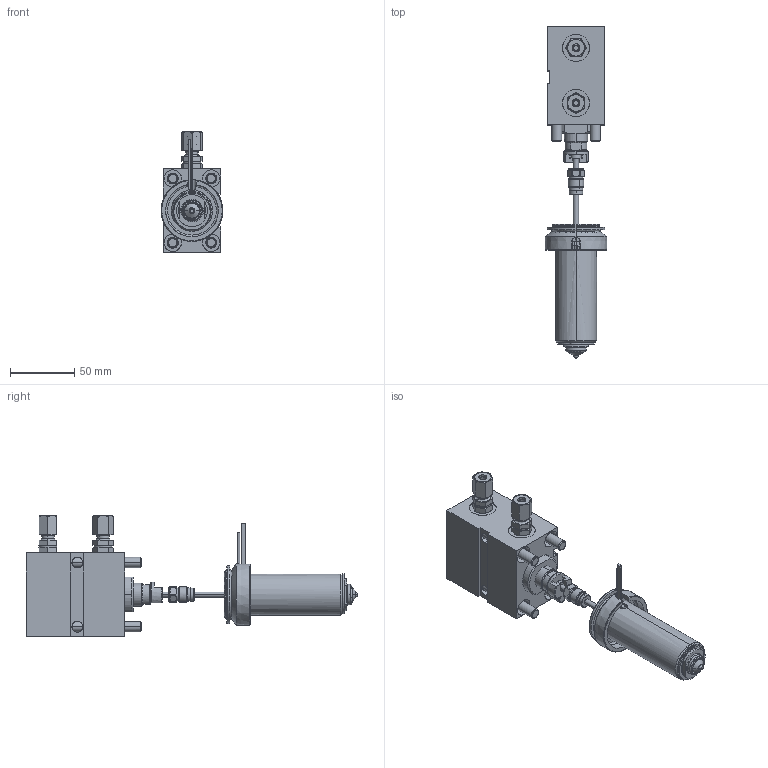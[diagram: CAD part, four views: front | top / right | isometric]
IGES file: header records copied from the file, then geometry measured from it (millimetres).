
Start section: Write IGES format                                    datakit 2008 (c)
Global section: file name: Unknown; native system: DATAKIT Converter; preprocessor: Unknown; author: Unknown; organization: Unknown; date: 950613.180003; units: millimetre
Bounding box: 48 x 258.5 x 94.01 mm (x, y, z)
Surface area: 121584.6 mm2 (no closed solid volume)
Topology: 0 solids, 0 shells, 744 faces, 3350 edges, 3336 vertices
Faces by surface type: revolution 468, bspline 276
